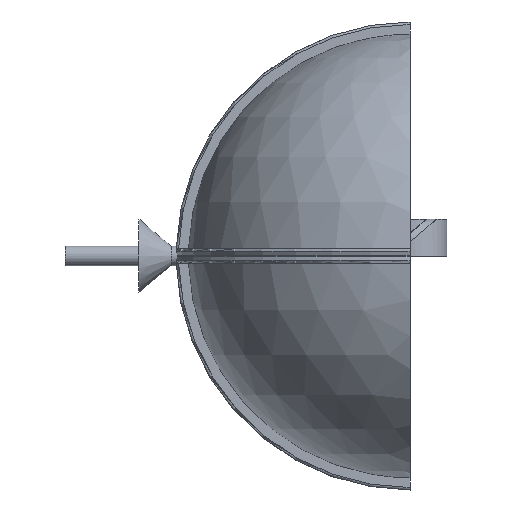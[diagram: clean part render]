
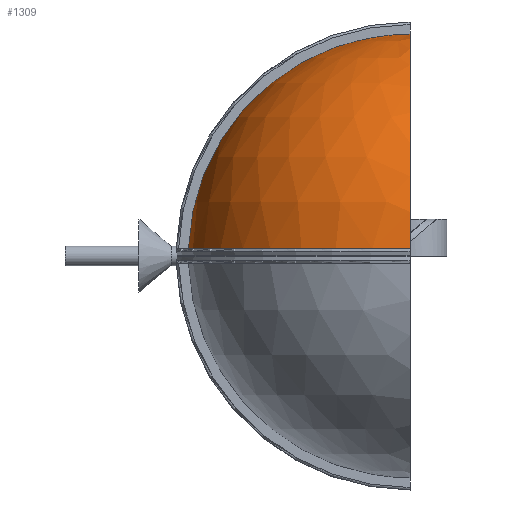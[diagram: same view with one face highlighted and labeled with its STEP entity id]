
A CAD part, left-side view. The second image highlights one B-rep face of the part: STEP entity #1309.
In plain terms, the highlighted spherical face has radius 45 mm.
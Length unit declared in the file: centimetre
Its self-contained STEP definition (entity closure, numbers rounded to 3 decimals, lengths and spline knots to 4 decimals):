
#626=SPHERICAL_SURFACE('',#2412,4.5);
#710=VERTEX_POINT('',#3519);
#711=VERTEX_POINT('',#3521);
#720=VERTEX_POINT('',#3596);
#812=EDGE_CURVE('',#710,#711,#1995,.T.);
#833=EDGE_CURVE('',#711,#720,#2002,.T.);
#834=EDGE_CURVE('',#720,#710,#2004,.T.);
#1009=ORIENTED_EDGE('',*,*,#812,.T.);
#1010=ORIENTED_EDGE('',*,*,#833,.T.);
#1011=ORIENTED_EDGE('',*,*,#834,.T.);
#1181=EDGE_LOOP('',(#1009,#1010,#1011));
#1247=FACE_BOUND('',#1181,.T.);
#1309=ADVANCED_FACE('',(#1247),#626,.T.);
#1995=CIRCLE('',#2404,4.4975);
#2002=CIRCLE('',#2413,4.5);
#2004=CIRCLE('',#2416,4.4975);
#2404=AXIS2_PLACEMENT_3D('',#3522,#3894,#3895);
#2412=AXIS2_PLACEMENT_3D('',#3587,#3913,#3914);
#2413=AXIS2_PLACEMENT_3D('',#3588,#3915,#3916);
#2416=AXIS2_PLACEMENT_3D('',#3597,#3922,#3923);
#3519=CARTESIAN_POINT('',(-0.15,4.495,0.15));
#3521=CARTESIAN_POINT('',(-4.4975,0.,0.15));
#3522=CARTESIAN_POINT('',(0.,0.,0.15));
#3587=CARTESIAN_POINT('',(0.,0.,0.));
#3588=CARTESIAN_POINT('',(0.,0.,0.));
#3596=CARTESIAN_POINT('',(-0.15,0.,4.4975));
#3597=CARTESIAN_POINT('',(-0.15,0.,0.));
#3894=DIRECTION('',(0.,0.,1.));
#3895=DIRECTION('',(4.497,0.,0.));
#3913=DIRECTION('',(0.,0.,1.));
#3914=DIRECTION('',(1.,0.,0.));
#3915=DIRECTION('',(0.,1.,0.));
#3916=DIRECTION('',(4.5,0.,0.));
#3922=DIRECTION('',(-1.,0.,0.));
#3923=DIRECTION('',(0.,0.,4.497));
